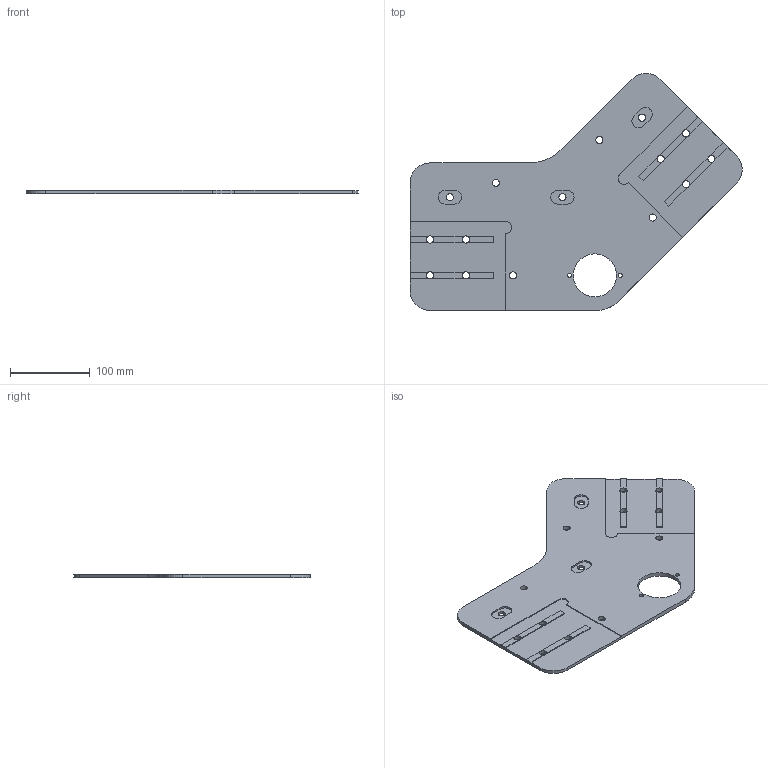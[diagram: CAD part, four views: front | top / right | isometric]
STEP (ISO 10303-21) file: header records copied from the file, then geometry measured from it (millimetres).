
FILE_DESCRIPTION (( 'STEP AP203' ), '1' );
FILE_NAME ('084.821.122.STEP', '2020-06-24T06:55:15', ( 'Localadmin' ), ( 'Microsoft' ), 'SwSTEP 2.0', 'SolidWorks 2018', '' );
FILE_SCHEMA (( 'CONFIG_CONTROL_DESIGN' ));
Length unit declared in the file: millimetre
Products named in the file (1): 084.821.122
Bounding box: 416.33 x 297.14 x 5 mm (x, y, z)
Volume: 347217.9 mm3; surface area: 159170.9 mm2
Topology: 1 solids, 1 shells, 117 faces, 360 edges, 240 vertices
Faces by surface type: plane 63, cylinder 54
Entity records: 4223 total; most frequent: DIRECTION 736, ORIENTED_EDGE 720, CARTESIAN_POINT 718, EDGE_CURVE 360, AXIS2_PLACEMENT_3D 258, VERTEX_POINT 240, LINE 220, VECTOR 220
